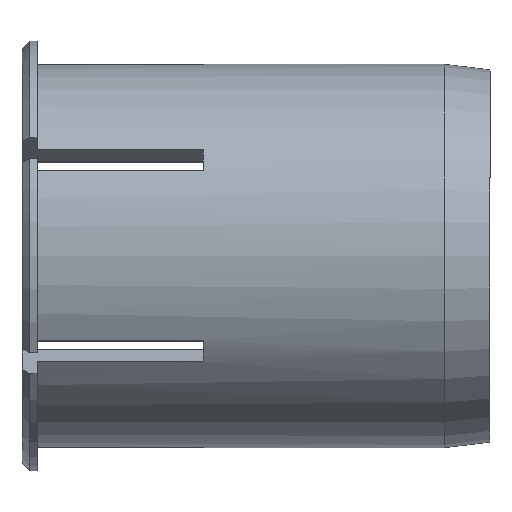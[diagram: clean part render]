
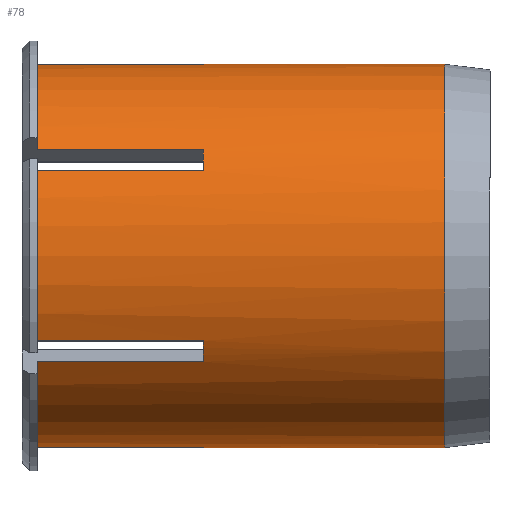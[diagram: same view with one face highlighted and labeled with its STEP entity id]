
A CAD part, top view. The second image highlights one B-rep face of the part: STEP entity #78.
In plain terms, the highlighted cylindrical face has radius 12.7 mm (diameter 25.4 mm), a partial arc.
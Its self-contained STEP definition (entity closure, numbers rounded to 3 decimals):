
#78=ADVANCED_FACE('',(#196),#197,.T.);
#196=FACE_OUTER_BOUND('',#352,.T.);
#197=CYLINDRICAL_SURFACE('',#353,12.7);
#352=EDGE_LOOP('',(#524,#525,#526,#527,#528,#529,#530,#531,#532,#533,#534,#535,#536,#537,#538,#539));
#353=AXIS2_PLACEMENT_3D('',#540,#541,#542);
#524=ORIENTED_EDGE('',*,*,#999,.F.);
#525=ORIENTED_EDGE('',*,*,#1000,.T.);
#526=ORIENTED_EDGE('',*,*,#1001,.T.);
#527=ORIENTED_EDGE('',*,*,#1002,.T.);
#528=ORIENTED_EDGE('',*,*,#1003,.T.);
#529=ORIENTED_EDGE('',*,*,#1004,.T.);
#530=ORIENTED_EDGE('',*,*,#1005,.T.);
#531=ORIENTED_EDGE('',*,*,#1006,.T.);
#532=ORIENTED_EDGE('',*,*,#1007,.T.);
#533=ORIENTED_EDGE('',*,*,#1008,.T.);
#534=ORIENTED_EDGE('',*,*,#1009,.T.);
#535=ORIENTED_EDGE('',*,*,#1010,.T.);
#536=ORIENTED_EDGE('',*,*,#1011,.T.);
#537=ORIENTED_EDGE('',*,*,#1012,.T.);
#538=ORIENTED_EDGE('',*,*,#1013,.F.);
#539=ORIENTED_EDGE('',*,*,#995,.F.);
#540=CARTESIAN_POINT('',(14.5,0.,0.0));
#541=DIRECTION('',(1.0,0.,0.0));
#542=DIRECTION('',(0.,1.0,0.0));
#995=EDGE_CURVE('',#1202,#1205,#1206,.T.);
#999=EDGE_CURVE('',#1211,#1202,#1212,.T.);
#1000=EDGE_CURVE('',#1211,#1213,#1214,.T.);
#1001=EDGE_CURVE('',#1213,#1215,#1216,.T.);
#1002=EDGE_CURVE('',#1215,#1217,#1218,.T.);
#1003=EDGE_CURVE('',#1217,#1219,#1220,.T.);
#1004=EDGE_CURVE('',#1219,#1221,#1222,.T.);
#1005=EDGE_CURVE('',#1221,#1223,#1224,.T.);
#1006=EDGE_CURVE('',#1223,#1225,#1226,.T.);
#1007=EDGE_CURVE('',#1225,#1227,#1228,.T.);
#1008=EDGE_CURVE('',#1227,#1229,#1230,.T.);
#1009=EDGE_CURVE('',#1229,#1231,#1232,.T.);
#1010=EDGE_CURVE('',#1231,#1233,#1234,.T.);
#1011=EDGE_CURVE('',#1233,#1235,#1236,.T.);
#1012=EDGE_CURVE('',#1235,#1237,#1238,.T.);
#1013=EDGE_CURVE('',#1205,#1237,#1239,.T.);
#1202=VERTEX_POINT('',#1496);
#1205=VERTEX_POINT('',#1500);
#1206=CIRCLE('',#1501,12.7);
#1211=VERTEX_POINT('',#1507);
#1212=LINE('',#1508,#1509);
#1213=VERTEX_POINT('',#1510);
#1214=CIRCLE('',#1511,12.7);
#1215=VERTEX_POINT('',#1512);
#1216=LINE('',#1513,#1514);
#1217=VERTEX_POINT('',#1515);
#1218=CIRCLE('',#1516,12.7);
#1219=VERTEX_POINT('',#1517);
#1220=LINE('',#1518,#1519);
#1221=VERTEX_POINT('',#1520);
#1222=CIRCLE('',#1521,12.7);
#1223=VERTEX_POINT('',#1522);
#1224=LINE('',#1523,#1524);
#1225=VERTEX_POINT('',#1525);
#1226=CIRCLE('',#1526,12.7);
#1227=VERTEX_POINT('',#1527);
#1228=LINE('',#1528,#1529);
#1229=VERTEX_POINT('',#1530);
#1230=CIRCLE('',#1531,12.7);
#1231=VERTEX_POINT('',#1532);
#1232=LINE('',#1533,#1534);
#1233=VERTEX_POINT('',#1535);
#1234=CIRCLE('',#1536,12.7);
#1235=VERTEX_POINT('',#1537);
#1236=LINE('',#1538,#1539);
#1237=VERTEX_POINT('',#1540);
#1238=CIRCLE('',#1541,12.7);
#1239=LINE('',#1542,#1543);
#1496=CARTESIAN_POINT('',(28.,12.7,0.0));
#1500=CARTESIAN_POINT('',(28.,-12.7,0.));
#1501=AXIS2_PLACEMENT_3D('',#1959,#1960,#1961);
#1507=CARTESIAN_POINT('',(12.0,12.7,0.));
#1508=CARTESIAN_POINT('',(14.5,12.7,0.));
#1509=VECTOR('',#1966,1.0);
#1510=CARTESIAN_POINT('',(12.0,12.675,0.8));
#1511=AXIS2_PLACEMENT_3D('',#1967,#1968,#1969);
#1512=CARTESIAN_POINT('',(1.,12.675,0.8));
#1513=CARTESIAN_POINT('',(6.5,12.675,0.8));
#1514=VECTOR('',#1970,1.0);
#1515=CARTESIAN_POINT('',(1.,7.03,10.577));
#1516=AXIS2_PLACEMENT_3D('',#1971,#1972,#1973);
#1517=CARTESIAN_POINT('',(12.0,7.03,10.577));
#1518=CARTESIAN_POINT('',(6.5,7.03,10.577));
#1519=VECTOR('',#1974,1.0);
#1520=CARTESIAN_POINT('',(12.0,5.645,11.377));
#1521=AXIS2_PLACEMENT_3D('',#1975,#1976,#1977);
#1522=CARTESIAN_POINT('',(1.,5.645,11.377));
#1523=CARTESIAN_POINT('',(6.5,5.645,11.377));
#1524=VECTOR('',#1978,1.0);
#1525=CARTESIAN_POINT('',(1.,-5.645,11.377));
#1526=AXIS2_PLACEMENT_3D('',#1979,#1980,#1981);
#1527=CARTESIAN_POINT('',(12.0,-5.645,11.377));
#1528=CARTESIAN_POINT('',(6.5,-5.645,11.377));
#1529=VECTOR('',#1982,1.0);
#1530=CARTESIAN_POINT('',(12.0,-7.03,10.577));
#1531=AXIS2_PLACEMENT_3D('',#1983,#1984,#1985);
#1532=CARTESIAN_POINT('',(1.,-7.03,10.577));
#1533=CARTESIAN_POINT('',(6.5,-7.03,10.577));
#1534=VECTOR('',#1986,1.0);
#1535=CARTESIAN_POINT('',(1.,-12.675,0.8));
#1536=AXIS2_PLACEMENT_3D('',#1987,#1988,#1989);
#1537=CARTESIAN_POINT('',(12.0,-12.675,0.8));
#1538=CARTESIAN_POINT('',(6.5,-12.675,0.8));
#1539=VECTOR('',#1990,1.0);
#1540=CARTESIAN_POINT('',(12.0,-12.7,0.));
#1541=AXIS2_PLACEMENT_3D('',#1991,#1992,#1993);
#1542=CARTESIAN_POINT('',(14.5,-12.7,0.));
#1543=VECTOR('',#1994,1.0);
#1959=CARTESIAN_POINT('',(28.,0.,0.0));
#1960=DIRECTION('',(1.0,0.,0.0));
#1961=DIRECTION('',(0.,1.0,0.0));
#1966=DIRECTION('',(1.0,0.,0.0));
#1967=CARTESIAN_POINT('',(12.0,0.,0.0));
#1968=DIRECTION('',(1.0,0.0,0.0));
#1969=DIRECTION('',(0.0,1.0,0.0));
#1970=DIRECTION('',(-1.0,0.,0.0));
#1971=CARTESIAN_POINT('',(1.,0.,0.0));
#1972=DIRECTION('',(1.0,0.,0.0));
#1973=DIRECTION('',(0.,1.0,0.0));
#1974=DIRECTION('',(1.0,0.,0.0));
#1975=CARTESIAN_POINT('',(12.0,0.,0.0));
#1976=DIRECTION('',(1.0,0.0,0.0));
#1977=DIRECTION('',(0.0,1.0,0.0));
#1978=DIRECTION('',(-1.0,0.,0.0));
#1979=CARTESIAN_POINT('',(1.,0.,0.0));
#1980=DIRECTION('',(1.0,0.,0.0));
#1981=DIRECTION('',(0.,1.0,0.0));
#1982=DIRECTION('',(1.0,0.,0.0));
#1983=CARTESIAN_POINT('',(12.0,0.,0.0));
#1984=DIRECTION('',(1.0,0.0,0.0));
#1985=DIRECTION('',(0.0,1.0,0.0));
#1986=DIRECTION('',(-1.0,0.,0.0));
#1987=CARTESIAN_POINT('',(1.,0.,0.0));
#1988=DIRECTION('',(1.0,0.,0.0));
#1989=DIRECTION('',(0.,1.0,0.0));
#1990=DIRECTION('',(1.0,0.,0.0));
#1991=CARTESIAN_POINT('',(12.0,0.,0.0));
#1992=DIRECTION('',(1.0,0.0,0.0));
#1993=DIRECTION('',(0.0,1.0,0.0));
#1994=DIRECTION('',(-1.0,0.,-0.0));
